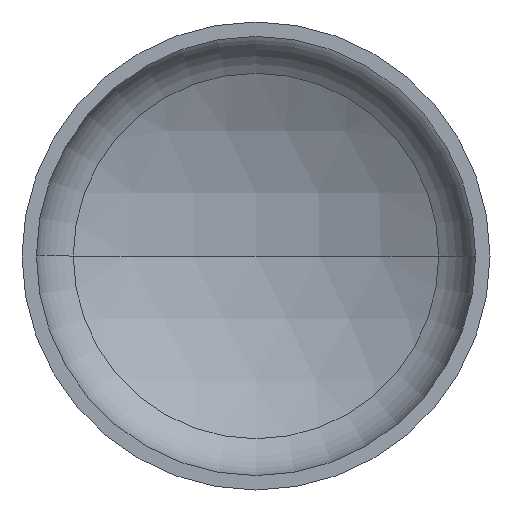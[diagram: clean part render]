
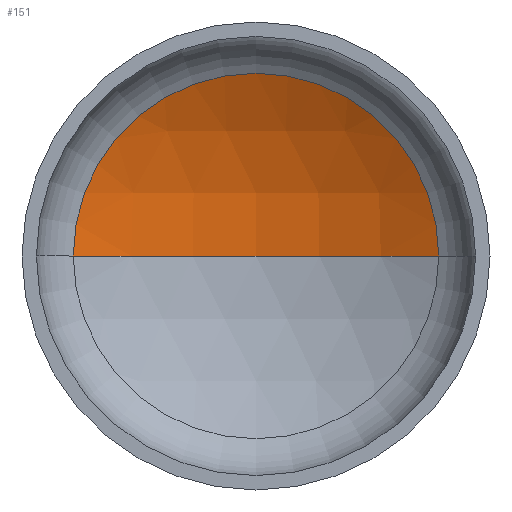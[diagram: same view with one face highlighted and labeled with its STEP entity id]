
A CAD part, front view. The second image highlights one B-rep face of the part: STEP entity #151.
In plain terms, the highlighted spherical face has radius 1040 mm.
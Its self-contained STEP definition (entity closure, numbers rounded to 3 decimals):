
#3 = AXIS2_PLACEMENT_3D ( 'NONE', #303, #60, #267 ) ;
#9 = AXIS2_PLACEMENT_3D ( 'NONE', #139, #122, #142 ) ;
#28 = ORIENTED_EDGE ( 'NONE', *, *, #114, .T. ) ;
#38 = CARTESIAN_POINT ( 'NONE',  ( 0., 426.856, 0. ) ) ;
#48 = AXIS2_PLACEMENT_3D ( 'NONE', #70, #237, #213 ) ;
#60 = DIRECTION ( 'NONE',  ( 0., 0., 1. ) ) ;
#61 = AXIS2_PLACEMENT_3D ( 'NONE', #148, #216, #397 ) ;
#70 = CARTESIAN_POINT ( 'NONE',  ( 0., -613.144, 0. ) ) ;
#84 = ORIENTED_EDGE ( 'NONE', *, *, #355, .F. ) ;
#89 = ORIENTED_EDGE ( 'NONE', *, *, #349, .T. ) ;
#114 = EDGE_CURVE ( 'NONE', #167, #319, #403, .T. ) ;
#122 = DIRECTION ( 'NONE',  ( 0., 0., -1. ) ) ;
#137 = EDGE_LOOP ( 'NONE', ( #84, #89, #28 ) ) ;
#139 = CARTESIAN_POINT ( 'NONE',  ( 0., -613.144, 0. ) ) ;
#142 = DIRECTION ( 'NONE',  ( -1., 0., 0. ) ) ;
#148 = CARTESIAN_POINT ( 'NONE',  ( 0., 294.558, 0. ) ) ;
#151 = ADVANCED_FACE ( 'NONE', ( #398 ), #345, .F. ) ;
#152 = CARTESIAN_POINT ( 'NONE',  ( -507.619, 294.558, 0. ) ) ;
#167 = VERTEX_POINT ( 'NONE', #358 ) ;
#213 = DIRECTION ( 'NONE',  ( -1., 0., 0. ) ) ;
#216 = DIRECTION ( 'NONE',  ( 0., -1., 0. ) ) ;
#237 = DIRECTION ( 'NONE',  ( 0., 0., -1. ) ) ;
#267 = DIRECTION ( 'NONE',  ( 1., 0., 0. ) ) ;
#303 = CARTESIAN_POINT ( 'NONE',  ( 0., -613.144, 0. ) ) ;
#319 = VERTEX_POINT ( 'NONE', #152 ) ;
#321 = CIRCLE ( 'NONE', #9, 1040. ) ;
#327 = VERTEX_POINT ( 'NONE', #38 ) ;
#345 = SPHERICAL_SURFACE ( 'NONE', #48, 1040. ) ;
#349 = EDGE_CURVE ( 'NONE', #327, #167, #321, .T. ) ;
#355 = EDGE_CURVE ( 'NONE', #327, #319, #363, .T. ) ;
#358 = CARTESIAN_POINT ( 'NONE',  ( 507.619, 294.558, 0. ) ) ;
#363 = CIRCLE ( 'NONE', #3, 1040. ) ;
#397 = DIRECTION ( 'NONE',  ( 1., 0., 0. ) ) ;
#398 = FACE_OUTER_BOUND ( 'NONE', #137, .T. ) ;
#403 = CIRCLE ( 'NONE', #61, 507.619 ) ;
